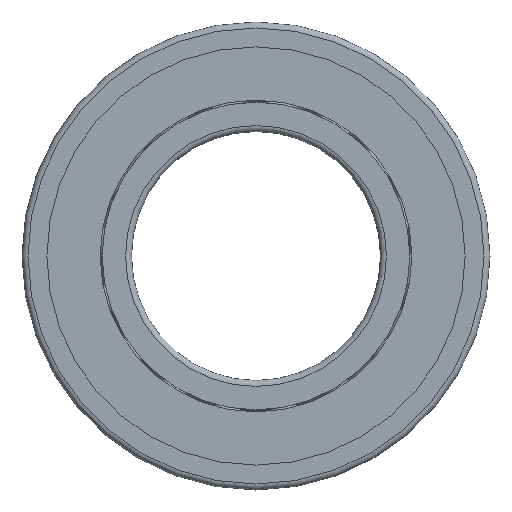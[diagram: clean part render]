
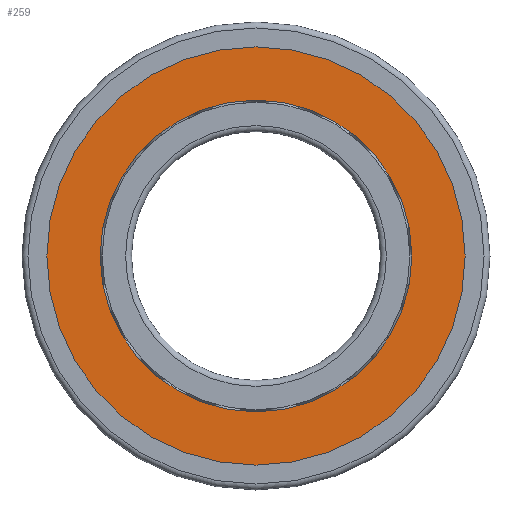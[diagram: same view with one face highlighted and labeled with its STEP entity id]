
A CAD part, left-side view. The second image highlights one B-rep face of the part: STEP entity #259.
In plain terms, the highlighted planar face has unit normal (-1, 0, 0).
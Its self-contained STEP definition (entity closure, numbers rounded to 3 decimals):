
#210=PLANE('',#937);
#259=ADVANCED_FACE('',(#340,#341),#210,.F.);
#340=FACE_BOUND('',#489,.T.);
#341=FACE_BOUND('',#490,.T.);
#489=EDGE_LOOP('',(#621));
#490=EDGE_LOOP('',(#622));
#621=ORIENTED_EDGE('',*,*,#828,.F.);
#622=ORIENTED_EDGE('',*,*,#826,.T.);
#743=VERTEX_POINT('',#1239);
#745=VERTEX_POINT('',#1244);
#826=EDGE_CURVE('',#743,#743,#892,.T.);
#828=EDGE_CURVE('',#745,#745,#894,.T.);
#892=CIRCLE('',#933,21.);
#894=CIRCLE('',#936,15.65);
#933=AXIS2_PLACEMENT_3D('',#1238,#1049,#1050);
#936=AXIS2_PLACEMENT_3D('',#1243,#1055,#1056);
#937=AXIS2_PLACEMENT_3D('',#1245,#1057,#1058);
#1049=DIRECTION('',(-1.,0.,0.));
#1050=DIRECTION('',(0.,0.,1.));
#1055=DIRECTION('',(-1.,0.,0.));
#1056=DIRECTION('',(0.,0.,1.));
#1057=DIRECTION('',(1.,0.,0.));
#1058=DIRECTION('',(0.,0.,-1.));
#1238=CARTESIAN_POINT('',(0.1,0.,0.));
#1239=CARTESIAN_POINT('',(0.1,0.,21.));
#1243=CARTESIAN_POINT('',(0.1,0.,0.));
#1244=CARTESIAN_POINT('',(0.1,0.,15.65));
#1245=CARTESIAN_POINT('',(0.1,0.,21.));
